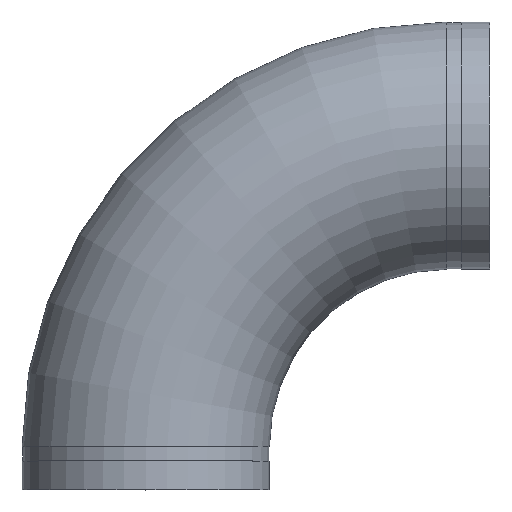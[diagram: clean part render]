
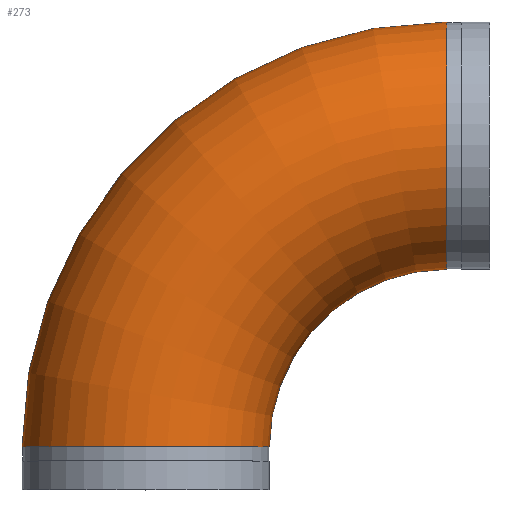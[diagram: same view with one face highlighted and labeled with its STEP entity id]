
A CAD part, top view. The second image highlights one B-rep face of the part: STEP entity #273.
In plain terms, the highlighted toroidal (fillet/blend) face has major radius 266.7 mm and minor radius 109.537 mm.
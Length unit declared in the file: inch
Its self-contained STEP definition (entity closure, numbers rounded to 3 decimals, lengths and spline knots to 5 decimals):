
#46=TOROIDAL_SURFACE('',#329,10.5,4.3125);
#81=FACE_OUTER_BOUND('',#99,.T.);
#99=EDGE_LOOP('',(#227,#228,#229,#230,#231,#232));
#105=CIRCLE('',#298,4.3125);
#106=CIRCLE('',#299,4.3125);
#117=CIRCLE('',#315,4.3125);
#118=CIRCLE('',#316,4.3125);
#127=CIRCLE('',#330,6.1875);
#129=VERTEX_POINT('',#460);
#130=VERTEX_POINT('',#461);
#141=VERTEX_POINT('',#491);
#142=VERTEX_POINT('',#492);
#151=EDGE_CURVE('',#129,#130,#105,.T.);
#152=EDGE_CURVE('',#130,#129,#106,.T.);
#165=EDGE_CURVE('',#141,#142,#117,.T.);
#166=EDGE_CURVE('',#142,#141,#118,.T.);
#178=EDGE_CURVE('',#142,#130,#127,.T.);
#227=ORIENTED_EDGE('',*,*,#165,.F.);
#228=ORIENTED_EDGE('',*,*,#166,.F.);
#229=ORIENTED_EDGE('',*,*,#178,.T.);
#230=ORIENTED_EDGE('',*,*,#152,.T.);
#231=ORIENTED_EDGE('',*,*,#151,.T.);
#232=ORIENTED_EDGE('',*,*,#178,.F.);
#273=ADVANCED_FACE('',(#81),#46,.T.);
#298=AXIS2_PLACEMENT_3D('',#462,#352,#353);
#299=AXIS2_PLACEMENT_3D('',#463,#354,#355);
#315=AXIS2_PLACEMENT_3D('',#493,#388,#389);
#316=AXIS2_PLACEMENT_3D('',#494,#390,#391);
#329=AXIS2_PLACEMENT_3D('',#517,#419,#420);
#330=AXIS2_PLACEMENT_3D('',#518,#421,#422);
#352=DIRECTION('center_axis',(-1.,0.,0.));
#353=DIRECTION('ref_axis',(0.,-1.,0.));
#354=DIRECTION('center_axis',(-1.,0.,0.));
#355=DIRECTION('ref_axis',(0.,-1.,0.));
#388=DIRECTION('center_axis',(0.,-1.,0.));
#389=DIRECTION('ref_axis',(1.,0.,0.));
#390=DIRECTION('center_axis',(0.,-1.,0.));
#391=DIRECTION('ref_axis',(1.,0.,0.));
#419=DIRECTION('center_axis',(0.,0.,1.));
#420=DIRECTION('ref_axis',(1.,0.,0.));
#421=DIRECTION('center_axis',(0.,0.,-1.));
#422=DIRECTION('ref_axis',(1.,0.,0.));
#460=CARTESIAN_POINT('',(10.5,16.3125,0.));
#461=CARTESIAN_POINT('',(10.5,7.6875,0.));
#462=CARTESIAN_POINT('Origin',(10.5,12.,0.));
#463=CARTESIAN_POINT('Origin',(10.5,12.,0.));
#491=CARTESIAN_POINT('',(-4.3125,1.5,0.));
#492=CARTESIAN_POINT('',(4.3125,1.5,0.));
#493=CARTESIAN_POINT('Origin',(0.,1.5,0.));
#494=CARTESIAN_POINT('Origin',(0.,1.5,0.));
#517=CARTESIAN_POINT('Origin',(10.5,1.5,0.));
#518=CARTESIAN_POINT('Origin',(10.5,1.5,0.));
